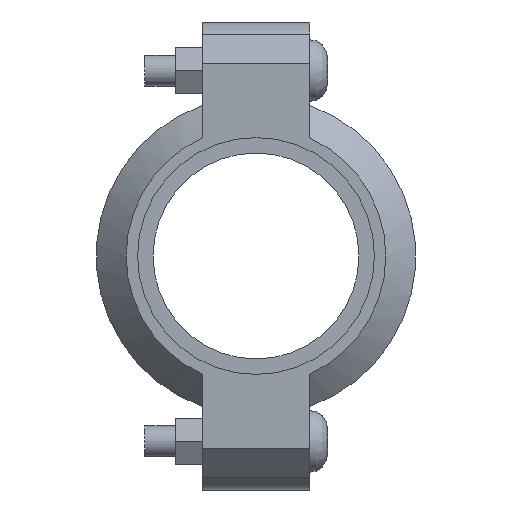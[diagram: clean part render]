
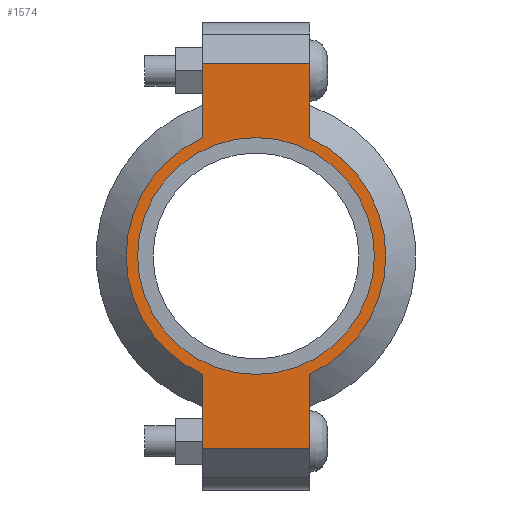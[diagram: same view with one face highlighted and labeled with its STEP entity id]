
A CAD part, left-side view. The second image highlights one B-rep face of the part: STEP entity #1574.
In plain terms, the highlighted planar face has unit normal (-1, 0, 0) as drawn and (0, 0, 1) by its records, which use the part's own axes.
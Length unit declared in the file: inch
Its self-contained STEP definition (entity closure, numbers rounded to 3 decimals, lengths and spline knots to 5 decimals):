
#198=LINE('',#2747,#291);
#206=LINE('',#2783,#299);
#213=LINE('',#2804,#306);
#222=LINE('',#2836,#315);
#223=LINE('',#2840,#316);
#224=LINE('',#2842,#317);
#291=VECTOR('',#2235,0.3937);
#299=VECTOR('',#2251,0.3937);
#306=VECTOR('',#2270,0.3937);
#315=VECTOR('',#2295,0.3937);
#316=VECTOR('',#2300,0.3937);
#317=VECTOR('',#2301,0.3937);
#373=FACE_BOUND('',#551,.T.);
#445=FACE_OUTER_BOUND('',#550,.T.);
#550=EDGE_LOOP('',(#1315,#1316,#1317,#1318,#1319,#1320,#1321,#1322));
#551=EDGE_LOOP('',(#1323));
#623=CIRCLE('',#1793,1.4375);
#649=CIRCLE('',#1852,1.575);
#650=CIRCLE('',#1853,1.575);
#715=VERTEX_POINT('',#2563);
#758=VERTEX_POINT('',#2744);
#759=VERTEX_POINT('',#2746);
#770=VERTEX_POINT('',#2778);
#771=VERTEX_POINT('',#2782);
#778=VERTEX_POINT('',#2801);
#779=VERTEX_POINT('',#2803);
#789=VERTEX_POINT('',#2839);
#790=VERTEX_POINT('',#2841);
#871=EDGE_CURVE('',#715,#715,#623,.T.);
#932=EDGE_CURVE('',#759,#758,#198,.T.);
#946=EDGE_CURVE('',#771,#770,#206,.T.);
#956=EDGE_CURVE('',#779,#778,#213,.T.);
#971=EDGE_CURVE('',#771,#758,#222,.T.);
#972=EDGE_CURVE('',#770,#779,#649,.T.);
#973=EDGE_CURVE('',#789,#778,#223,.T.);
#974=EDGE_CURVE('',#789,#790,#224,.T.);
#975=EDGE_CURVE('',#790,#759,#650,.T.);
#1315=ORIENTED_EDGE('',*,*,#971,.F.);
#1316=ORIENTED_EDGE('',*,*,#946,.T.);
#1317=ORIENTED_EDGE('',*,*,#972,.T.);
#1318=ORIENTED_EDGE('',*,*,#956,.T.);
#1319=ORIENTED_EDGE('',*,*,#973,.F.);
#1320=ORIENTED_EDGE('',*,*,#974,.T.);
#1321=ORIENTED_EDGE('',*,*,#975,.T.);
#1322=ORIENTED_EDGE('',*,*,#932,.T.);
#1323=ORIENTED_EDGE('',*,*,#871,.T.);
#1416=PLANE('',#1851);
#1574=ADVANCED_FACE('',(#445,#373),#1416,.T.);
#1793=AXIS2_PLACEMENT_3D('',#2565,#2111,#2112);
#1851=AXIS2_PLACEMENT_3D('',#2837,#2296,#2297);
#1852=AXIS2_PLACEMENT_3D('',#2838,#2298,#2299);
#1853=AXIS2_PLACEMENT_3D('',#2843,#2302,#2303);
#2111=DIRECTION('center_axis',(0.,0.,-1.));
#2112=DIRECTION('ref_axis',(-1.,0.,0.));
#2235=DIRECTION('',(-1.,0.,0.));
#2251=DIRECTION('',(1.,0.,0.));
#2270=DIRECTION('',(1.,0.,0.));
#2295=DIRECTION('',(0.,1.,0.));
#2296=DIRECTION('center_axis',(0.,0.,1.));
#2297=DIRECTION('ref_axis',(1.,0.,0.));
#2298=DIRECTION('center_axis',(0.,0.,1.));
#2299=DIRECTION('ref_axis',(-1.,0.,0.));
#2300=DIRECTION('',(0.,-1.,0.));
#2301=DIRECTION('',(-1.,0.,0.));
#2302=DIRECTION('center_axis',(0.,0.,1.));
#2303=DIRECTION('ref_axis',(-1.,0.,0.));
#2563=CARTESIAN_POINT('',(1.4375,0.,0.94));
#2565=CARTESIAN_POINT('Origin',(0.,0.,0.94));
#2744=CARTESIAN_POINT('',(-2.34,0.65,0.94));
#2746=CARTESIAN_POINT('',(-1.43462,0.65,0.94));
#2747=CARTESIAN_POINT('',(-2.84,0.65,0.94));
#2778=CARTESIAN_POINT('',(-1.43462,-0.65,0.94));
#2782=CARTESIAN_POINT('',(-2.34,-0.65,0.94));
#2783=CARTESIAN_POINT('',(2.84,-0.65,0.94));
#2801=CARTESIAN_POINT('',(2.34,-0.65,0.94));
#2803=CARTESIAN_POINT('',(1.43462,-0.65,0.94));
#2804=CARTESIAN_POINT('',(2.84,-0.65,0.94));
#2836=CARTESIAN_POINT('',(-2.34,0.325,0.94));
#2837=CARTESIAN_POINT('Origin',(0.,0.,
0.94));
#2838=CARTESIAN_POINT('Origin',(0.,0.,0.94));
#2839=CARTESIAN_POINT('',(2.34,0.65,0.94));
#2840=CARTESIAN_POINT('',(2.34,-0.325,0.94));
#2841=CARTESIAN_POINT('',(1.43462,0.65,0.94));
#2842=CARTESIAN_POINT('',(-2.84,0.65,0.94));
#2843=CARTESIAN_POINT('Origin',(0.,0.,0.94));
